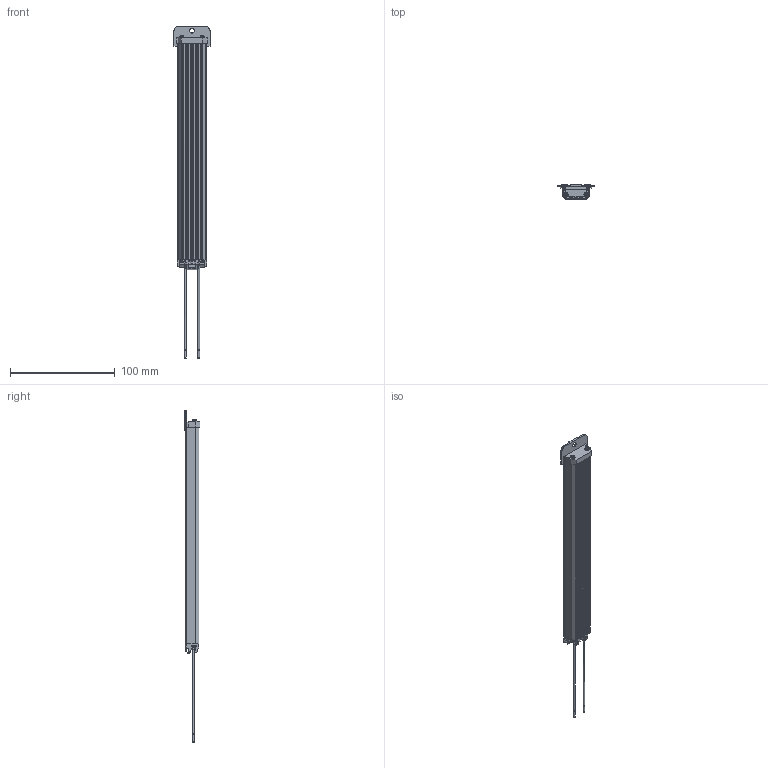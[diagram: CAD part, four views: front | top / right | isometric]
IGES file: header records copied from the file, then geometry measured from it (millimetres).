
Start section: C
Global section: file name: 020-515-07.igs; native system: By Siemens PLM Incorporated; preprocessor: XPlus GENERIC/IGES 23.0.61; author: Author; organization: Title; date: 20230712.184059; units: millimetre
Bounding box: 34.4 x 15.15 x 316.35 mm (x, y, z)
Volume: 39362.8 mm3; surface area: 50292.3 mm2
Topology: 38 solids, 38 shells, 4288 faces, 12637 edges, 8311 vertices
Faces by surface type: bspline 4288
